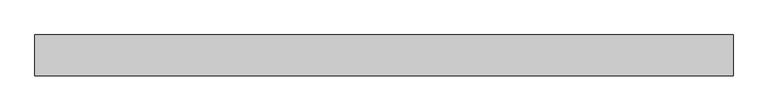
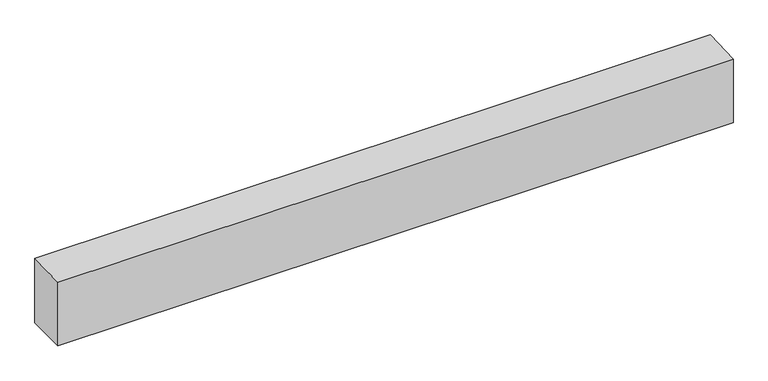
"""IFC4 building model written with IfcOpenShell, lengths in millimetres: proxy geometry, Tête de mur C1b : tête de mur."""

from ifc_helpers import new_model, si_unit, frame, origin, place, context, project, spatial, polyline, outline, extrude, source, transform, mapped, element, save


def generic_models_2fdfbecb(model_context):
    return source(origin(), model_context, "Body", "SweptSolid", [
        extrude(outline(polyline([(2700.0, 5208.0), (2900.0, 5216.0), (2900.0, 4871.0), (2700.0, 4871.0), (2700.0, 5208.0)])), frame((6880.0, 0.0, 0.0), z_axis=(1.0, 0.0, 0.0), x_axis=(0.0, 1.0, 0.0)), (0.0, 0.0, 1.0), 3400.0),
    ])


if __name__ == "__main__":
    model = new_model("IFC4")
    model_context = context("Model", 3, world=origin())
    ifc_project = project(units=[si_unit("LENGTHUNIT", "METRE", prefix="MILLI")], contexts=[model_context])
    site = spatial("IfcSite", under=ifc_project)
    building = spatial("IfcBuilding", under=site)
    placement = place(None, origin())
    generic_models_shape = generic_models_2fdfbecb(model_context)
    element("IfcBuildingElementProxy", 1, Name="Tête de mur C1b : tête de mur", ObjectType="Tête de mur C1b : tête de mur", at=placement, inside=building, context=model_context, shape_type="MappedRepresentation", body=[
        mapped(generic_models_shape, transform((0.0, 0.0, 0.0), x_axis=(1.0, 0.0, 0.0), y_axis=(0.0, 1.0, 0.0), z_axis=(0.0, 0.0, 1.0))),
    ])
    save(model, "model.ifc")
